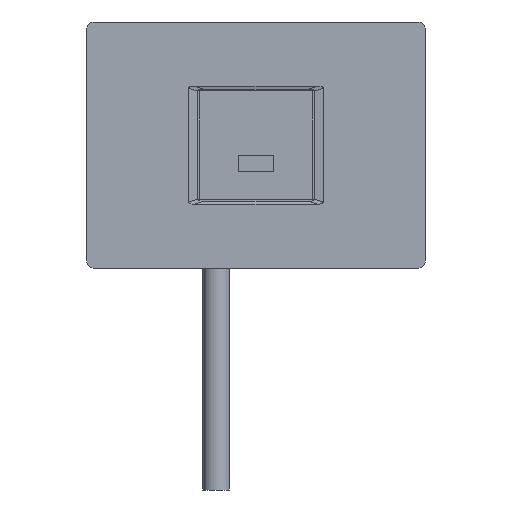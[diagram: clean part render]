
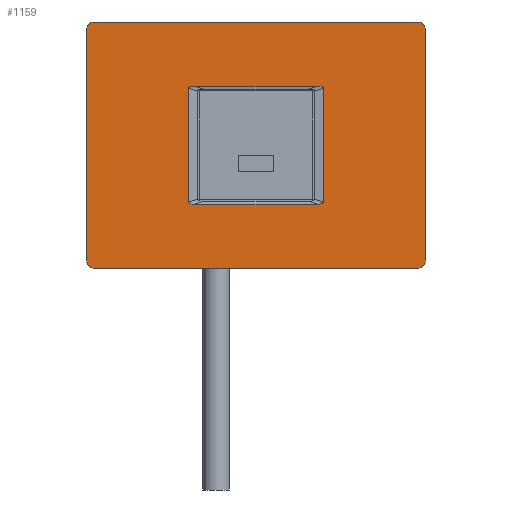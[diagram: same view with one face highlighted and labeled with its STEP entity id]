
A CAD part, front view. The second image highlights one B-rep face of the part: STEP entity #1159.
In plain terms, the highlighted planar face has unit normal (0, -1, 0).
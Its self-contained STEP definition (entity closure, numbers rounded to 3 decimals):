
#17=FACE_BOUND('',#199,.T.);
#21=CIRCLE('',#1255,2.8);
#25=CIRCLE('',#1262,2.8);
#26=CIRCLE('',#1265,2.8);
#27=CIRCLE('',#1266,2.8);
#81=PLANE('',#1264);
#133=FACE_OUTER_BOUND('',#198,.T.);
#198=EDGE_LOOP('',(#844,#845,#846,#847,#848,#849,#850,#851));
#199=EDGE_LOOP('',(#852,#853,#854,#855,#856,#857,#858,#859));
#263=LINE('',#1734,#379);
#266=LINE('',#1743,#382);
#270=LINE('',#1754,#386);
#271=LINE('',#1756,#387);
#276=LINE('',#1771,#392);
#282=LINE('',#1792,#398);
#284=LINE('',#1798,#400);
#285=LINE('',#1800,#401);
#379=VECTOR('',#1384,10.);
#382=VECTOR('',#1393,10.);
#386=VECTOR('',#1407,10.);
#387=VECTOR('',#1410,10.);
#392=VECTOR('',#1423,10.);
#398=VECTOR('',#1443,10.);
#400=VECTOR('',#1449,10.);
#401=VECTOR('',#1452,10.);
#484=ELLIPSE('',#1242,59.768,5.);
#485=ELLIPSE('',#1245,59.768,5.);
#486=ELLIPSE('',#1248,59.768,5.);
#487=ELLIPSE('',#1250,59.768,5.);
#504=VERTEX_POINT('',#1726);
#505=VERTEX_POINT('',#1728);
#506=VERTEX_POINT('',#1732);
#507=VERTEX_POINT('',#1736);
#508=VERTEX_POINT('',#1738);
#509=VERTEX_POINT('',#1742);
#510=VERTEX_POINT('',#1746);
#511=VERTEX_POINT('',#1750);
#514=VERTEX_POINT('',#1761);
#515=VERTEX_POINT('',#1763);
#517=VERTEX_POINT('',#1769);
#523=VERTEX_POINT('',#1785);
#524=VERTEX_POINT('',#1786);
#525=VERTEX_POINT('',#1791);
#526=VERTEX_POINT('',#1795);
#527=VERTEX_POINT('',#1797);
#615=EDGE_CURVE('',#504,#505,#484,.T.);
#618=EDGE_CURVE('',#504,#506,#263,.T.);
#620=EDGE_CURVE('',#507,#508,#485,.T.);
#622=EDGE_CURVE('',#509,#508,#266,.T.);
#624=EDGE_CURVE('',#509,#510,#486,.T.);
#627=EDGE_CURVE('',#511,#506,#487,.T.);
#628=EDGE_CURVE('',#507,#505,#270,.T.);
#629=EDGE_CURVE('',#511,#510,#271,.T.);
#632=EDGE_CURVE('',#514,#515,#21,.T.);
#636=EDGE_CURVE('',#517,#514,#276,.T.);
#643=EDGE_CURVE('',#523,#524,#25,.T.);
#646=EDGE_CURVE('',#524,#525,#282,.T.);
#648=EDGE_CURVE('',#526,#517,#26,.T.);
#649=EDGE_CURVE('',#526,#527,#284,.T.);
#650=EDGE_CURVE('',#525,#527,#27,.T.);
#651=EDGE_CURVE('',#523,#515,#285,.T.);
#844=ORIENTED_EDGE('',*,*,#632,.F.);
#845=ORIENTED_EDGE('',*,*,#636,.F.);
#846=ORIENTED_EDGE('',*,*,#648,.F.);
#847=ORIENTED_EDGE('',*,*,#649,.T.);
#848=ORIENTED_EDGE('',*,*,#650,.F.);
#849=ORIENTED_EDGE('',*,*,#646,.F.);
#850=ORIENTED_EDGE('',*,*,#643,.F.);
#851=ORIENTED_EDGE('',*,*,#651,.T.);
#852=ORIENTED_EDGE('',*,*,#622,.T.);
#853=ORIENTED_EDGE('',*,*,#620,.F.);
#854=ORIENTED_EDGE('',*,*,#628,.T.);
#855=ORIENTED_EDGE('',*,*,#615,.F.);
#856=ORIENTED_EDGE('',*,*,#618,.T.);
#857=ORIENTED_EDGE('',*,*,#627,.F.);
#858=ORIENTED_EDGE('',*,*,#629,.T.);
#859=ORIENTED_EDGE('',*,*,#624,.F.);
#1159=ADVANCED_FACE('',(#133,#17),#81,.T.);
#1242=AXIS2_PLACEMENT_3D('',#1729,#1378,#1379);
#1245=AXIS2_PLACEMENT_3D('',#1739,#1388,#1389);
#1248=AXIS2_PLACEMENT_3D('',#1747,#1397,#1398);
#1250=AXIS2_PLACEMENT_3D('',#1752,#1403,#1404);
#1255=AXIS2_PLACEMENT_3D('',#1764,#1416,#1417);
#1262=AXIS2_PLACEMENT_3D('',#1787,#1437,#1438);
#1264=AXIS2_PLACEMENT_3D('',#1794,#1445,#1446);
#1265=AXIS2_PLACEMENT_3D('',#1796,#1447,#1448);
#1266=AXIS2_PLACEMENT_3D('',#1799,#1450,#1451);
#1378=DIRECTION('center_axis',(0.,-1.,0.));
#1379=DIRECTION('ref_axis',(-0.951,0.,-0.308));
#1384=DIRECTION('',(0.,0.,1.));
#1388=DIRECTION('center_axis',(0.,-1.,0.));
#1389=DIRECTION('ref_axis',(0.951,0.,-0.308));
#1393=DIRECTION('',(0.,0.,-1.));
#1397=DIRECTION('center_axis',(0.,-1.,0.));
#1398=DIRECTION('ref_axis',(0.951,0.,0.308));
#1403=DIRECTION('center_axis',(0.,-1.,0.));
#1404=DIRECTION('ref_axis',(-0.951,0.,0.308));
#1407=DIRECTION('',(-1.,0.,0.));
#1410=DIRECTION('',(1.,0.,0.));
#1416=DIRECTION('center_axis',(0.,1.,0.));
#1417=DIRECTION('ref_axis',(0.707,0.,-0.707));
#1423=DIRECTION('',(0.,0.,-1.));
#1437=DIRECTION('center_axis',(0.,1.,0.));
#1438=DIRECTION('ref_axis',(-0.707,0.,-0.707));
#1443=DIRECTION('',(0.,0.,1.));
#1445=DIRECTION('center_axis',(0.,-1.,0.));
#1446=DIRECTION('ref_axis',(0.,0.,-1.));
#1447=DIRECTION('center_axis',(0.,1.,0.));
#1448=DIRECTION('ref_axis',(0.707,0.,0.707));
#1449=DIRECTION('',(-1.,0.,0.));
#1450=DIRECTION('center_axis',(0.,1.,0.));
#1451=DIRECTION('ref_axis',(-0.707,0.,0.707));
#1452=DIRECTION('',(1.,0.,0.));
#1726=CARTESIAN_POINT('',(-25.25,-39.,-21.409));
#1728=CARTESIAN_POINT('',(-23.033,-39.,-22.15));
#1729=CARTESIAN_POINT('Origin',(31.637,-39.,-3.147));
#1732=CARTESIAN_POINT('',(-25.25,-39.,21.409));
#1734=CARTESIAN_POINT('',(-25.25,-39.,12.05));
#1736=CARTESIAN_POINT('',(23.033,-39.,-22.15));
#1738=CARTESIAN_POINT('',(25.25,-39.,-21.409));
#1739=CARTESIAN_POINT('Origin',(-31.637,-39.,-3.147));
#1742=CARTESIAN_POINT('',(25.25,-39.,21.409));
#1743=CARTESIAN_POINT('',(25.25,-39.,34.2));
#1746=CARTESIAN_POINT('',(23.033,-39.,22.15));
#1747=CARTESIAN_POINT('Origin',(-31.637,-39.,3.147));
#1750=CARTESIAN_POINT('',(-23.033,-39.,22.15));
#1752=CARTESIAN_POINT('Origin',(31.637,-39.,3.147));
#1754=CARTESIAN_POINT('',(12.625,-39.,-22.15));
#1756=CARTESIAN_POINT('',(-12.625,-39.,22.15));
#1761=CARTESIAN_POINT('',(63.5,-39.,-43.45));
#1763=CARTESIAN_POINT('',(60.7,-39.,-46.25));
#1764=CARTESIAN_POINT('Origin',(60.7,-39.,-43.45));
#1769=CARTESIAN_POINT('',(63.5,-39.,43.45));
#1771=CARTESIAN_POINT('',(63.5,-39.,46.25));
#1785=CARTESIAN_POINT('',(-60.7,-39.,-46.25));
#1786=CARTESIAN_POINT('',(-63.5,-39.,-43.45));
#1787=CARTESIAN_POINT('Origin',(-60.7,-39.,-43.45));
#1791=CARTESIAN_POINT('',(-63.5,-39.,43.45));
#1792=CARTESIAN_POINT('',(-63.5,-39.,46.25));
#1794=CARTESIAN_POINT('Origin',(0.,-39.,46.25));
#1795=CARTESIAN_POINT('',(60.7,-39.,46.25));
#1796=CARTESIAN_POINT('Origin',(60.7,-39.,43.45));
#1797=CARTESIAN_POINT('',(-60.7,-39.,46.25));
#1798=CARTESIAN_POINT('',(0.,-39.,46.25));
#1799=CARTESIAN_POINT('Origin',(-60.7,-39.,43.45));
#1800=CARTESIAN_POINT('',(0.,-39.,-46.25));
